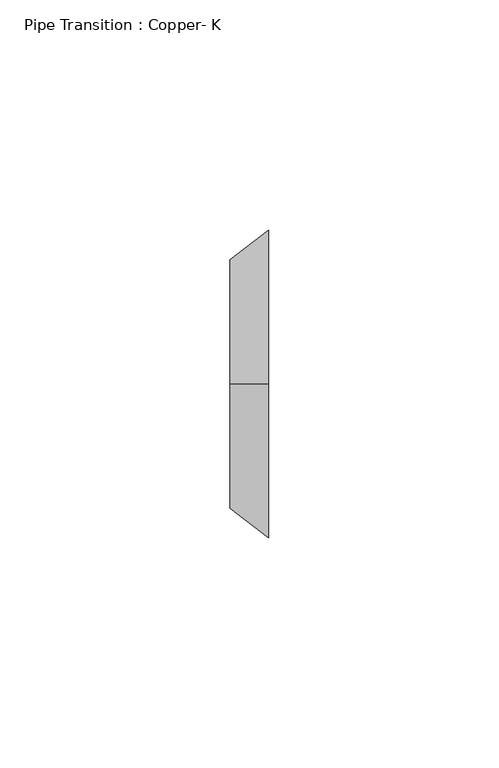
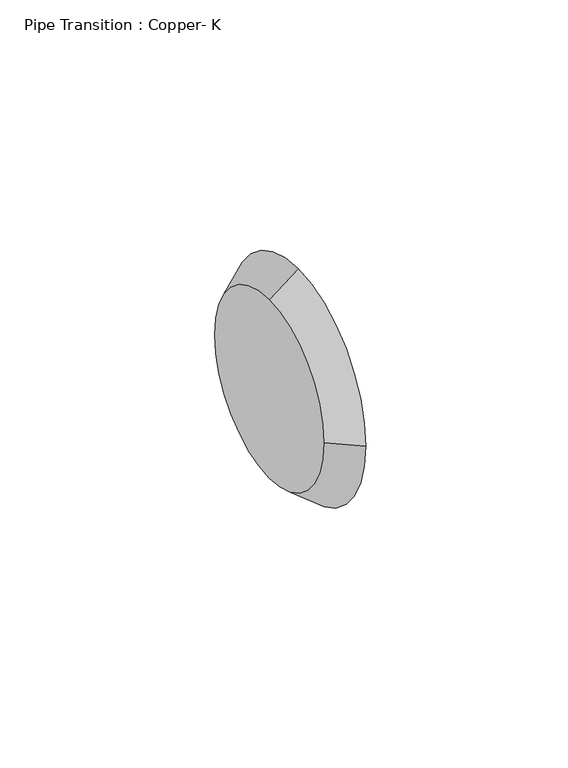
"""IFC4 building model written with IfcOpenShell, lengths in millimetres: pipe fitting geometry, Pipe Transition : Copper- K."""

import ifcopenshell
import ifcopenshell.guid

model = None  # the IFC model being written
_history = None  # IfcOwnerHistory: only IFC2X3 demands one
_inside = {}  # id of a spatial element -> (the spatial element, [elements in it])
_under = {}  # id of a project, library or spatial element -> (it, [spatial elements below it])
_declared = {}  # id of a project -> (the project, [libraries it declares])
_typed = {}  # id of a type object -> (the type object, [elements of that type])
_made_of = {}  # id of a material, layer set ... -> (it, [elements and type objects made of it])


def new_model(schema):
    """Start an empty IFC model of exactly this schema.

    Asked for "IFC4X3", IfcOpenShell would pick the latest addendum, in which some entities
    have other attributes; the version numbers below select the first issue.
    IFC2X3 requires an IfcOwnerHistory on every rooted entity: one is made here for all.
    """
    global model, _history
    if schema == "IFC4X3":
        model = ifcopenshell.file(schema_version=(4, 3, 0, 0))
    else:
        model = ifcopenshell.file(schema=schema)
    _inside.clear()
    _under.clear()
    _declared.clear()
    _typed.clear()
    _made_of.clear()
    _history = None
    if model.schema == "IFC2X3":
        org = make("IfcOrganization", Name="unknown")
        user = make(
            "IfcPersonAndOrganization",
            ThePerson=make("IfcPerson", FamilyName="unknown"),
            TheOrganization=org,
        )
        app = make(
            "IfcApplication",
            ApplicationDeveloper=org,
            Version="unknown",
            ApplicationFullName="unknown",
            ApplicationIdentifier="unknown",
        )
        _history = make(
            "IfcOwnerHistory",
            OwningUser=user,
            OwningApplication=app,
            ChangeAction="ADDED",
            CreationDate=0,
        )
    return model


def make(cls, **values):
    """One entity of the class cls with the attributes given. An attribute that is None is left unset."""
    return model.create_entity(
        cls, **{name: value for name, value in values.items() if value is not None}
    )


def rooted(cls, **values):
    """An entity with a GlobalId (a new one), such as an element, a storey or a relation."""
    return make(cls, GlobalId=ifcopenshell.guid.new(), OwnerHistory=_history, **values)


def si_unit(unit_type, name, prefix=None):
    """IfcSIUnit, for example si_unit("LENGTHUNIT", "METRE", prefix="MILLI")."""
    return make("IfcSIUnit", UnitType=unit_type, Prefix=prefix, Name=name)


def assignment(units):
    """IfcUnitAssignment: the units of a project."""
    return None if units is None else make("IfcUnitAssignment", Units=units)


def point(xyz):
    """IfcCartesianPoint."""
    return None if xyz is None else make("IfcCartesianPoint", Coordinates=xyz)


def direction(xyz):
    """IfcDirection."""
    return None if xyz is None else make("IfcDirection", DirectionRatios=xyz)


def frame(location, z_axis=None, x_axis=None):
    """IfcAxis2Placement3D, a coordinate frame: its origin and axes. An axis left out is left unset."""
    return make(
        "IfcAxis2Placement3D",
        Location=point(location),
        Axis=direction(z_axis),
        RefDirection=direction(x_axis),
    )


def origin():
    """The frame at (0, 0, 0) with its axes left unset."""
    return frame((0.0, 0.0, 0.0))


def place(relative_to, where):
    """IfcLocalPlacement: puts the frame where relative to a parent placement (None: the world)."""
    return make(
        "IfcLocalPlacement", PlacementRelTo=relative_to, RelativePlacement=where
    )


def context(
    kind, dimensions, precision=None, world=None, true_north=None, identifier=None
):
    """IfcGeometricRepresentationContext, for example the 3D "Model" context."""
    return make(
        "IfcGeometricRepresentationContext",
        ContextIdentifier=identifier,
        ContextType=kind,
        CoordinateSpaceDimension=dimensions,
        Precision=precision,
        WorldCoordinateSystem=world,
        TrueNorth=true_north,
    )


def project(units=None, contexts=None):
    """IfcProject with its units and contexts."""
    return rooted(
        "IfcProject",
        Name="project",
        RepresentationContexts=contexts,
        UnitsInContext=assignment(units),
    )


def spatial(cls, under=None, at=None, **own):
    """A site, building, storey or space (cls), placed at a placement, below another one or the project."""
    s = rooted(cls, ObjectPlacement=at, **own)
    if under is not None:
        _under.setdefault(under.id(), (under, []))[1].append(s)
    return s


def polyline(points):
    """IfcPolyline through the points."""
    return make("IfcPolyline", Points=[point(p) for p in points])


def circle_curve(where, radius):
    """IfcCircle in the frame where."""
    return make("IfcCircle", Position=where, Radius=radius)


def shape(context_of_items, identifier, shape_type, items):
    """IfcShapeRepresentation: the items that make up one representation, for example the "Body"."""
    return make(
        "IfcShapeRepresentation",
        ContextOfItems=context_of_items,
        RepresentationIdentifier=identifier,
        RepresentationType=shape_type,
        Items=items,
    )


def source(mapping_origin, context_of_items, identifier, shape_type, items):
    """IfcRepresentationMap: a shape defined once, which mapped items show again and again."""
    return make(
        "IfcRepresentationMap",
        MappingOrigin=mapping_origin,
        MappedRepresentation=shape(context_of_items, identifier, shape_type, items),
    )


def transform(
    local_origin,
    x_axis=None,
    y_axis=None,
    z_axis=None,
    scale=None,
    scale2=None,
    scale3=None,
    uniform=True,
):
    """IfcCartesianTransformationOperator3D, or its non-uniform kind. x_axis, y_axis, z_axis: its Axis1, 2, 3."""
    if uniform:
        return make(
            "IfcCartesianTransformationOperator3D",
            Axis1=direction(x_axis),
            Axis2=direction(y_axis),
            LocalOrigin=point(local_origin),
            Scale=scale,
            Axis3=direction(z_axis),
        )
    return make(
        "IfcCartesianTransformationOperator3DnonUniform",
        Axis1=direction(x_axis),
        Axis2=direction(y_axis),
        LocalOrigin=point(local_origin),
        Scale=scale,
        Axis3=direction(z_axis),
        Scale2=scale2,
        Scale3=scale3,
    )


def mapped(mapping_source, mapping_target):
    """IfcMappedItem: shows the shape of a source again, moved by a transform."""
    return make(
        "IfcMappedItem", MappingSource=mapping_source, MappingTarget=mapping_target
    )


def made_of(thing, what):
    """Note that an element or type object is made of a material, layer set ...; save() writes the relation."""
    if what is not None:
        _made_of.setdefault(what.id(), (what, []))[1].append(thing)
    return thing


def element(
    cls,
    number,
    at=None,
    inside=None,
    cuts=None,
    type_object=None,
    material=None,
    context=None,
    identifier="Body",
    shape_type=None,
    held_by="IfcProductDefinitionShape",
    body=None,
    shapes=None,
    **own,
):
    """One element of the class cls, such as IfcWall. Its Tag is "e" and its number.

    at: its placement. inside: the storey or other place that contains it. cuts: it is an
    opening in that element (IfcRelVoidsElement). A single representation is given by context,
    identifier, shape_type and body (its items); several are given by shapes. held_by: the class
    of the entity that holds the representations. save() writes the other relations.
    """
    e = rooted(cls, Tag="e%d" % number, ObjectPlacement=at, **own)
    if body is not None:
        shapes = [shape(context, identifier, shape_type, body)]
    if shapes is not None:
        e.Representation = make(held_by, Representations=shapes)
    if inside is not None:
        _inside.setdefault(inside.id(), (inside, []))[1].append(e)
    if cuts is not None:
        rooted(
            "IfcRelVoidsElement", RelatingBuildingElement=cuts, RelatedOpeningElement=e
        )
    if type_object is not None:
        _typed.setdefault(type_object.id(), (type_object, []))[1].append(e)
    return made_of(e, material)


def aggregate(whole, parts):
    """IfcRelAggregates: a whole, such as a stair, and the parts it consists of."""
    return rooted("IfcRelAggregates", RelatingObject=whole, RelatedObjects=parts)


def save(model, path):
    """Write the relations noted so far, then the file.

    IfcRelAggregates (storeys below a building ...), IfcRelContainedInSpatialStructure (elements
    in a storey), IfcRelDefinesByType, IfcRelAssociatesMaterial and IfcRelDeclares: one each for
    every whole, place, type object, material and project.
    """
    for whole, parts in _under.values():
        aggregate(whole, parts)
    for where, things in _inside.values():
        rooted(
            "IfcRelContainedInSpatialStructure",
            RelatedElements=things,
            RelatingStructure=where,
        )
    for kind, things in _typed.values():
        rooted("IfcRelDefinesByType", RelatedObjects=things, RelatingType=kind)
    for what, things in _made_of.values():
        rooted("IfcRelAssociatesMaterial", RelatedObjects=things, RelatingMaterial=what)
    for by, libraries in _declared.values():
        rooted("IfcRelDeclares", RelatingContext=by, RelatedDefinitions=libraries)
    model.write(path)


def plane_surface(at):
    """IfcPlane: the flat surface through the origin of the frame at, square to its z axis."""
    return make("IfcPlane", Position=at)


def revolved_surface(curve, axis_point, axis_direction):
    """IfcSurfaceOfRevolution: the curve turned about the line through axis_point along axis_direction."""
    return make(
        "IfcSurfaceOfRevolution",
        SweptCurve=make("IfcArbitraryOpenProfileDef", ProfileType="CURVE", Curve=curve),
        AxisPosition=make("IfcAxis1Placement", Location=point(axis_point), Axis=direction(axis_direction)),
    )


def advanced_brep(points, edges, surfaces, faces):
    """IfcAdvancedBrep: a solid bounded by faces that lie on surfaces and meet in shared edges.

    An edge is (start, end): straight between two places in points (the first is 0);
    or (start, end, curve); or (start, end, curve, False) where it runs against its curve.
    A face is (place in surfaces, loops), or (place, loops, False) where it looks against
    its surface's normal. A loop lists edges by number (the first is 1), with a minus sign
    where the edge is run from its end to its start. The first loop is the outer one.
    """
    corners = [point(p) for p in points]
    vertices = [make("IfcVertexPoint", VertexGeometry=c) for c in corners]
    made = []
    for start, end, *more in edges:
        made.append(
            make(
                "IfcEdgeCurve",
                EdgeStart=vertices[start],
                EdgeEnd=vertices[end],
                EdgeGeometry=more[0] if more else make("IfcPolyline", Points=[corners[start], corners[end]]),
                SameSense=more[1] if len(more) > 1 else True,
            )
        )
    hull = []
    for where, loops, *sense in faces:
        bounds = []
        for j, loop in enumerate(loops):
            ring = [make("IfcOrientedEdge", EdgeElement=made[abs(k) - 1], Orientation=k > 0) for k in loop]
            bounds.append(
                make(
                    "IfcFaceOuterBound" if j == 0 else "IfcFaceBound",
                    Bound=make("IfcEdgeLoop", EdgeList=ring),
                    Orientation=True,
                )
            )
        hull.append(make("IfcAdvancedFace", Bounds=bounds, FaceSurface=surfaces[where], SameSense=sense[0] if sense else True))
    return make("IfcAdvancedBrep", Outer=make("IfcClosedShell", CfsFaces=hull))


def pipe_transition_copper_k_c80cab0c(model_context):
    return source(origin(), model_context, "Body", "AdvancedBrep", [
        advanced_brep(
        [(8.334375, 0.0, 33.3375), (8.334375, -33.3375, 0.0), (8.334375, 0.0, -33.3375), (8.334375, 33.3375, 0.0), (0.0, 0.0, 26.9875), (0.0, 26.9875, 0.0), (0.0, 0.0, -26.9875), (0.0, -26.9875, 0.0)],
        [
            (0, 1, circle_curve(frame((8.334375, 0.0, 0.0), z_axis=(1.0, 0.0, 0.0), x_axis=(0.0, -1.0, 0.0)), 33.3375)),
            (1, 2, circle_curve(frame((8.334375, 0.0, 0.0), z_axis=(1.0, 0.0, 0.0), x_axis=(0.0, 0.0, -1.0)), 33.3375)),
            (2, 3, circle_curve(frame((8.334375, 0.0, 0.0), z_axis=(1.0, 0.0, 0.0), x_axis=(0.0, 1.0, 0.0)), 33.3375)),
            (3, 0, circle_curve(frame((8.334375, 0.0, 0.0), z_axis=(1.0, 0.0, 0.0), x_axis=(0.0, 0.0, 1.0)), 33.3375)),
            (4, 5, circle_curve(frame((0.0, 0.0, 0.0), z_axis=(-1.0, 0.0, 0.0), x_axis=(0.0, 0.0, 1.0)), 26.9875)),
            (5, 6, circle_curve(frame((0.0, 0.0, 0.0), z_axis=(-1.0, 0.0, 0.0), x_axis=(0.0, 1.0, 0.0)), 26.9875)),
            (6, 7, circle_curve(frame((0.0, 0.0, 0.0), z_axis=(-1.0, 0.0, 0.0), x_axis=(0.0, 0.0, -1.0)), 26.9875)),
            (7, 4, circle_curve(frame((0.0, 0.0, 0.0), z_axis=(-1.0, 0.0, 0.0), x_axis=(0.0, -1.0, 0.0)), 26.9875)),
            (4, 0),
            (3, 5),
            (2, 6),
            (1, 7),
        ],
        [
            plane_surface(frame((8.334375, 0.0, 0.0), z_axis=(1.0, 0.0, 0.0), x_axis=(0.0, 1.0, 0.0))),
            plane_surface(frame((0.0, 0.0, 0.0), z_axis=(-1.0, 0.0, 0.0), x_axis=(0.0, 1.0, 0.0))),
            revolved_surface(polyline([(0.0, 0.0, 26.987499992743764), (8.334375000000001, 0.0, 33.3375)]), (-35.4210937, 0.0, 0.0), (1.0, 0.0, 0.0)),
            revolved_surface(polyline([(0.0, 26.987499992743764, 0.0), (8.334375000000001, 33.3375, 0.0)]), (-35.4210937, 0.0, 0.0), (1.0, 0.0, 0.0)),
            revolved_surface(polyline([(0.0, 0.0, -26.987499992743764), (8.334375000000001, 0.0, -33.3375)]), (-35.4210937, 0.0, 0.0), (1.0, 0.0, 0.0)),
            revolved_surface(polyline([(0.0, -26.987499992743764, 0.0), (8.334375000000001, -33.3375, 0.0)]), (-35.4210937, 0.0, 0.0), (1.0, 0.0, 0.0)),
        ],
        [
            (0, [[1, 2, 3, 4]]),
            (1, [[5, 6, 7, 8]]),
            (2, [[9, -4, 10, -5]]),
            (3, [[-10, -3, 11, -6]]),
            (4, [[-11, -2, 12, -7]]),
            (5, [[-12, -1, -9, -8]]),
        ],
    ),
        advanced_brep(
        [(8.334375, 0.0, 33.3375), (8.334375, -33.3375, 0.0), (8.334375, 0.0, -33.3375), (8.334375, 33.3375, 0.0), (0.0, 0.0, 26.9875), (0.0, 26.9875, 0.0), (0.0, 0.0, -26.9875), (0.0, -26.9875, 0.0)],
        [
            (0, 1, circle_curve(frame((8.334375, 0.0, 0.0), z_axis=(1.0, 0.0, 0.0), x_axis=(0.0, -1.0, 0.0)), 33.3375)),
            (1, 2, circle_curve(frame((8.334375, 0.0, 0.0), z_axis=(1.0, 0.0, -1.5686117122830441e-12), x_axis=(-1.568673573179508e-12, 0.0, -1.0)), 33.3375)),
            (2, 3, circle_curve(frame((8.334375, 0.0, 0.0), z_axis=(1.0, 0.0, 0.0), x_axis=(0.0, 1.0, 0.0)), 33.3375)),
            (3, 0, circle_curve(frame((8.334375, 0.0, 0.0), z_axis=(1.0, 0.0, -1.0080245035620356e-12), x_axis=(1.008105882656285e-12, 0.0, 1.0)), 33.3375)),
            (4, 5, circle_curve(frame((0.0, 0.0, 0.0), z_axis=(-1.0, 0.0, 1.0080245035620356e-12), x_axis=(1.008105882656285e-12, 0.0, 1.0)), 26.9875)),
            (5, 6, circle_curve(frame((0.0, 0.0, 0.0), z_axis=(-1.0, 0.0, 0.0), x_axis=(0.0, 1.0, 0.0)), 26.9875)),
            (6, 7, circle_curve(frame((0.0, 0.0, 0.0), z_axis=(-1.0, 0.0, 1.5686117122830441e-12), x_axis=(-1.568673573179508e-12, 0.0, -1.0)), 26.9875)),
            (7, 4, circle_curve(frame((0.0, 0.0, 0.0), z_axis=(-1.0, 0.0, 0.0), x_axis=(0.0, -1.0, 0.0)), 26.9875)),
            (4, 0),
            (3, 5),
            (2, 6),
            (1, 7),
        ],
        [
            plane_surface(frame((8.334375, 0.0, 0.0), z_axis=(1.0, 0.0, 0.0), x_axis=(0.0, 1.0, 0.0))),
            plane_surface(frame((0.0, 0.0, 0.0), z_axis=(-1.0, 0.0, 0.0), x_axis=(0.0, 1.0, 0.0))),
            revolved_surface(polyline([(-7.105427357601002e-15, 0.0, 26.98749999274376), (8.334375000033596, 0.0, 33.3375000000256)]), (-35.4210937, 0.0, 0.0), (1.0, 0.0, -1.0080245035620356e-12)),
            revolved_surface(polyline([(0.0, 26.987499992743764, 0.0), (8.334375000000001, 33.3375, 0.0)]), (-35.4210937, 0.0, 0.0), (1.0, 0.0, 0.0)),
            revolved_surface(polyline([(-4.233413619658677e-11, 0.0, -26.98750000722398), (8.334375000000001, 0.0, -33.3375)]), (-35.4210938, 0.0, 0.0), (1.0, 0.0, -1.5686117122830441e-12)),
            revolved_surface(polyline([(0.0, -26.987500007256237, 0.0), (8.334375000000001, -33.3375, 0.0)]), (-35.4210938, 0.0, 0.0), (1.0, 0.0, 0.0)),
        ],
        [
            (0, [[1, 2, 3, 4]]),
            (1, [[5, 6, 7, 8]]),
            (2, [[9, -4, 10, -5]]),
            (3, [[-10, -3, 11, -6]]),
            (4, [[-11, -2, 12, -7]]),
            (5, [[-12, -1, -9, -8]]),
        ],
    ),
    ])


if __name__ == "__main__":
    model = new_model("IFC4")
    model_context = context("Model", 3, world=origin())
    ifc_project = project(units=[si_unit("LENGTHUNIT", "METRE", prefix="MILLI")], contexts=[model_context])
    site = spatial("IfcSite", under=ifc_project)
    building = spatial("IfcBuilding", under=site)
    placement = place(None, origin())
    pipe_transition_copper_k_shape = pipe_transition_copper_k_c80cab0c(model_context)
    element("IfcPipeFitting", 1, ObjectType="Pipe Transition : Copper- K", at=placement, inside=building, context=model_context, shape_type="MappedRepresentation", body=[
        mapped(pipe_transition_copper_k_shape, transform((0.0, 0.0, 0.0), x_axis=(1.0, 0.0, 0.0), y_axis=(0.0, 1.0, 0.0), z_axis=(0.0, 0.0, 1.0))),
    ])
    save(model, "model.ifc")
